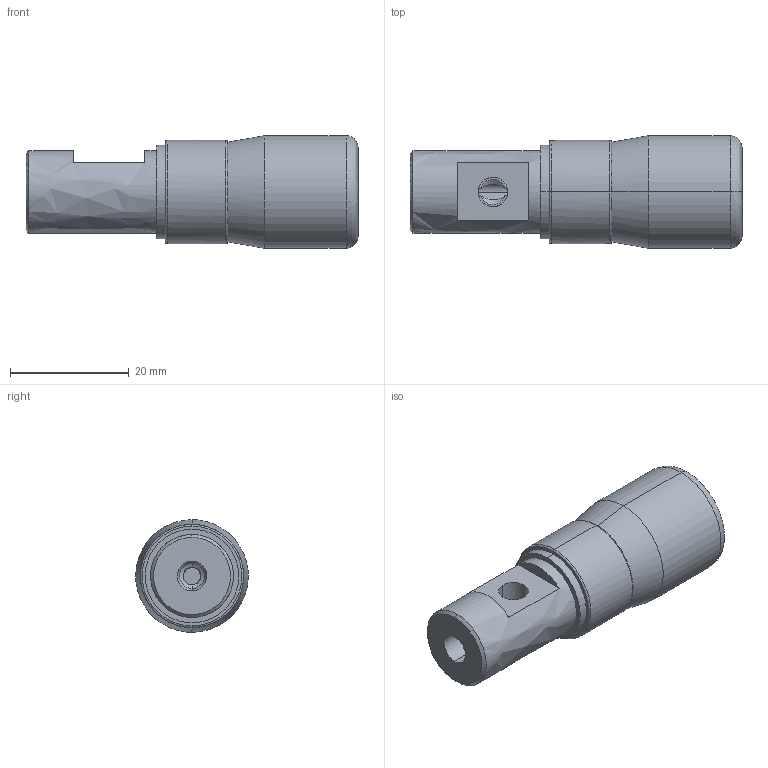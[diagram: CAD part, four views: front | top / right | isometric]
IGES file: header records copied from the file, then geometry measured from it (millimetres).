
Start section: ------------------------------------------------------------------------
Global section: file name: D:\ICADMX\tmp\trans3d_spg\TGMX25.1844.RBP014RCA_23246.igs; native system: spGate; preprocessor: ver11.3.7; author: Unknown; organization: Unknown; date: 150330.151241; units: millimetre
Bounding box: 56 x 18.99 x 19 mm (x, y, z)
Volume: 11036.5 mm3; surface area: 4043.4 mm2
Topology: 1 solids, 1 shells, 47 faces, 103 edges, 63 vertices
Faces by surface type: bspline 47
